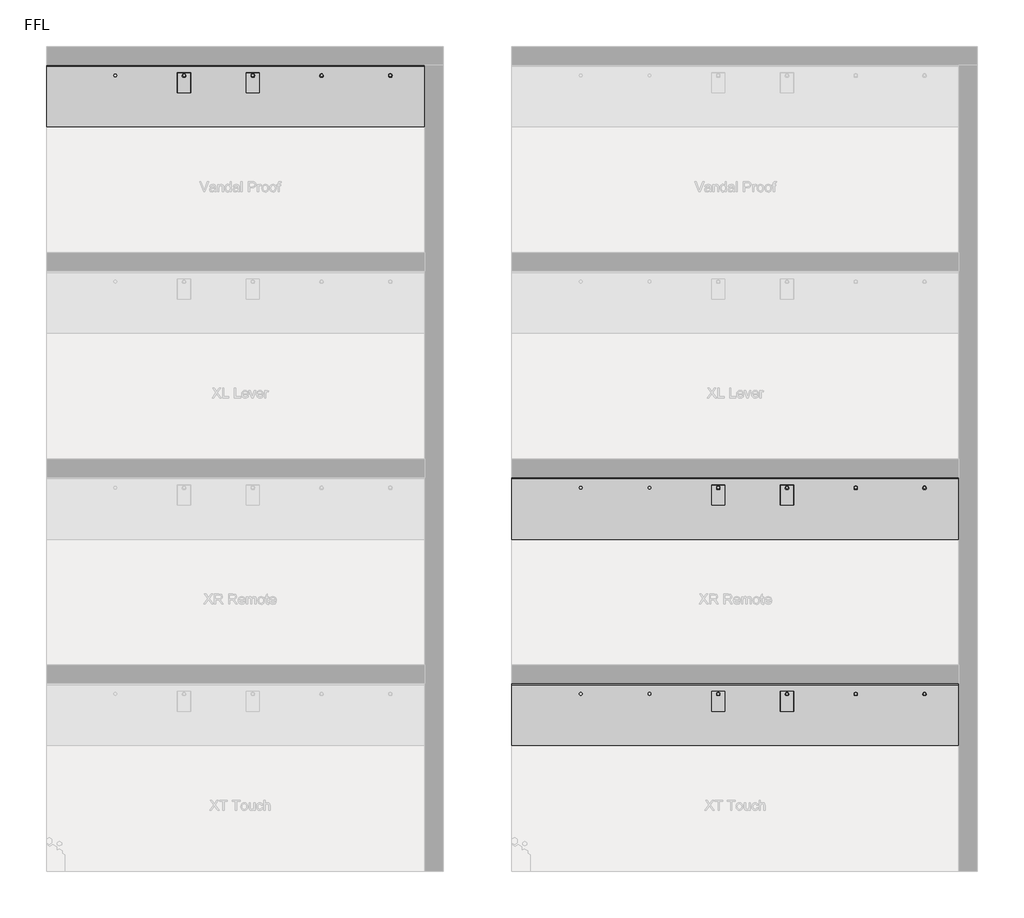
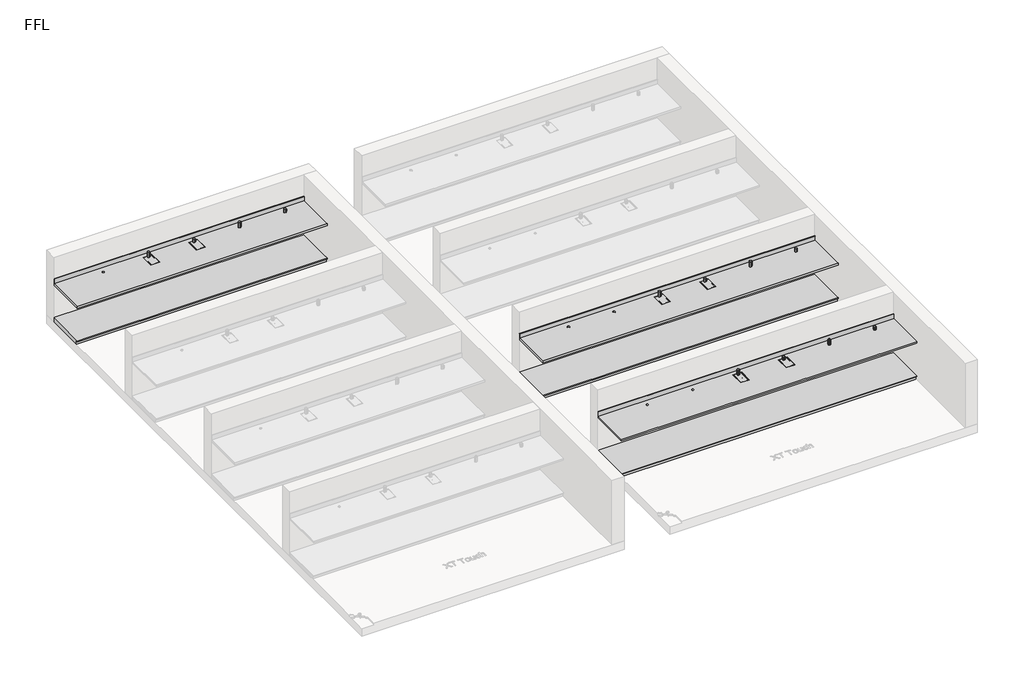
# One storey, part 2 of 5: 12 flow terminals, 6 furniture elements.
"""IFC4 building model written with IfcOpenShell, lengths in millimetres."""

from ifc_helpers import new_model, si_unit, frame, origin, place, context, project, spatial, polyline, circle_curve, transform, mapped, element, save
from ifc_brep_helpers import plane_surface, revolved_surface, advanced_brep
from components import brushed_582ad824, chrome_7b1b1f62, chrome_988dec97, chrome_73782d16, generic_plinth_900mm_f33d2354, generic_plinth_900mm_e3c7578c

model = new_model("IFC4")

# Units and contexts
model_context = context("Model", 3, world=origin())
ifc_project = project(units=[si_unit("LENGTHUNIT", "METRE", prefix="MILLI")], contexts=[model_context])

# Site, building, storey
site = spatial("IfcSite", under=ifc_project)
building = spatial("IfcBuilding", under=site)
storey = spatial("IfcBuildingStorey", under=building, Name="FFL", Elevation=0.0)

# Flow terminals
placement = place(None, origin())
brushed_shape = brushed_582ad824(model_context)
element("IfcFlowTerminal", 1, ObjectType="z_PlumFixt_Billi_70mm Riser  : Brushed", at=placement, inside=storey, context=model_context, shape_type="MappedRepresentation", body=[
    mapped(brushed_shape, transform((20299.2647071, 4711.9893304, 900.0), x_axis=(1.0, 0.0, 0.0), y_axis=(0.0, 1.0, 0.0), z_axis=(0.0, 0.0, 1.0))),
])
element("IfcFlowTerminal", 2, ObjectType="z_PlumFixt_Billi_70mm Riser  : Chrome", at=placement, inside=storey, context=model_context, shape_type="MappedRepresentation", body=[
    mapped(brushed_shape, transform((12529.2647071, 13711.9893304, 900.0), x_axis=(1.0, 0.0, 0.0), y_axis=(0.0, 1.0, 0.0), z_axis=(0.0, 0.0, 1.0))),
])
element("IfcFlowTerminal", 3, ObjectType="z_PlumFixt_Billi_70mm Riser  : Chrome", at=placement, inside=storey, context=model_context, shape_type="MappedRepresentation", body=[
    mapped(brushed_shape, transform((20299.2647071, 7711.9893304, 900.0), x_axis=(1.0, 0.0, 0.0), y_axis=(0.0, 1.0, 0.0), z_axis=(0.0, 0.0, 1.0))),
])
chrome_shape = chrome_7b1b1f62(model_context)
element("IfcFlowTerminal", 4, ObjectType="z_PlumFixt_Billi_120mm Riser : Chrome", at=placement, inside=storey, context=model_context, shape_type="MappedRepresentation", body=[
    mapped(chrome_shape, transform((11529.2647071, 13711.9893304, 900.0), x_axis=(1.0, 0.0, 0.0), y_axis=(0.0, 1.0, 0.0), z_axis=(0.0, 0.0, 1.0))),
])
element("IfcFlowTerminal", 5, ObjectType="z_PlumFixt_Billi_120mm Riser : Chrome", at=placement, inside=storey, context=model_context, shape_type="MappedRepresentation", body=[
    mapped(chrome_shape, transform((19299.2647071, 7711.9893304, 900.0), x_axis=(1.0, 0.0, 0.0), y_axis=(0.0, 1.0, 0.0), z_axis=(0.0, 0.0, 1.0))),
])
element("IfcFlowTerminal", 6, ObjectType="z_PlumFixt_Billi_120mm Riser : Chrome", at=placement, inside=storey, context=model_context, shape_type="MappedRepresentation", body=[
    mapped(chrome_shape, transform((19299.2647071, 4711.9893304, 900.0), x_axis=(1.0, 0.0, 0.0), y_axis=(0.0, 1.0, 0.0), z_axis=(0.0, 0.0, 1.0))),
])
chrome_2_shape = chrome_988dec97(model_context)
element("IfcFlowTerminal", 7, ObjectType="z_PlumFixt_Billi_Font and 70mm Riser : Chrome", at=placement, inside=storey, context=model_context, shape_type="MappedRepresentation", body=[
    mapped(chrome_2_shape, transform((10529.2647071, 13603.3988696, 900.0), x_axis=(1.0, 0.0, 0.0), y_axis=(0.0, 1.0, 0.0), z_axis=(0.0, 0.0, 1.0))),
])
element("IfcFlowTerminal", 8, ObjectType="z_PlumFixt_Billi_Font and 70mm Riser : Chrome", at=placement, inside=storey, context=model_context, shape_type="MappedRepresentation", body=[
    mapped(chrome_2_shape, transform((18299.2647071, 7603.3988696, 900.0), x_axis=(1.0, 0.0, 0.0), y_axis=(0.0, 1.0, 0.0), z_axis=(0.0, 0.0, 1.0))),
])
chrome_3_shape = chrome_73782d16(model_context)
element("IfcFlowTerminal", 9, ObjectType="z_PlumFixt_Billi_Font and 120mm Riser : Chrome", at=placement, inside=storey, context=model_context, shape_type="MappedRepresentation", body=[
    mapped(chrome_3_shape, transform((17299.2647071, 7603.3988696, 900.0), x_axis=(1.0, 0.0, 0.0), y_axis=(0.0, 1.0, 0.0), z_axis=(0.0, 0.0, 1.0))),
])
element("IfcFlowTerminal", 10, ObjectType="z_PlumFixt_Billi_Font and 120mm Riser : Chrome", at=placement, inside=storey, context=model_context, shape_type="MappedRepresentation", body=[
    mapped(chrome_3_shape, transform((9529.2647071, 13603.3988696, 900.0), x_axis=(1.0, 0.0, 0.0), y_axis=(0.0, 1.0, 0.0), z_axis=(0.0, 0.0, 1.0))),
])
element("IfcFlowTerminal", 11, ObjectType="z_PlumFixt_Billi_Font and 70mm Riser : Matte Black", at=placement, inside=storey, context=model_context, shape_type="MappedRepresentation", body=[
    mapped(chrome_2_shape, transform((18299.2647071, 4603.3988696, 900.0), x_axis=(1.0, 0.0, 0.0), y_axis=(0.0, 1.0, 0.0), z_axis=(0.0, 0.0, 1.0))),
])
element("IfcFlowTerminal", 12, ObjectType="z_PlumFixt_Billi_Font and 120mm Riser : Matte White", at=placement, inside=storey, context=model_context, shape_type="MappedRepresentation", body=[
    mapped(chrome_3_shape, transform((17299.2647071, 4603.3988696, 900.0), x_axis=(1.0, 0.0, 0.0), y_axis=(0.0, 1.0, 0.0), z_axis=(0.0, 0.0, 1.0))),
])

# Furniture
element("IfcFurniture", 13, ObjectType="Counter Top : 900mm Depth", at=placement, inside=storey, context=model_context, shape_type="AdvancedBrep", body=[
    advanced_brep(
    [(7530.2647071, 12948.2393304, 900.0), (13030.2647071, 12948.2393304, 900.0), (13030.2647071, 13829.1893304, 900.0), (7530.2647071, 13829.1893304, 900.0), (8530.2647071, 13718.2393304, 900.0), (8530.2647071, 13678.2393304, 900.0), (10434.7647071, 13735.1488696, 900.0), (10625.7647071, 13735.1488696, 900.0), (10625.7647071, 13444.1488696, 900.0), (10434.7647071, 13444.1488696, 900.0), (11530.2647071, 13718.2393304, 900.0), (11530.2647071, 13678.2393304, 900.0), (12530.2647071, 13718.2393304, 900.0), (12530.2647071, 13678.2393304, 900.0), (9434.7647071, 13735.1488696, 900.0), (9625.7647071, 13735.1488696, 900.0), (9625.7647071, 13444.1488696, 900.0), (9434.7647071, 13444.1488696, 900.0), (13030.2647071, 13848.2393304, 860.0), (13030.2647071, 12948.2393304, 860.0), (7530.2647071, 12948.2393304, 860.0), (7530.2647071, 13848.2393304, 860.0), (8530.2647071, 13678.2393304, 860.0), (8530.2647071, 13718.2393304, 860.0), (10617.2647071, 13726.6488696, 860.0), (10443.2647071, 13726.6488696, 860.0), (10443.2647071, 13452.6488696, 860.0), (10617.2647071, 13452.6488696, 860.0), (11530.2647071, 13678.2393304, 860.0), (11530.2647071, 13718.2393304, 860.0), (12530.2647071, 13678.2393304, 860.0), (12530.2647071, 13718.2393304, 860.0), (9617.2647071, 13726.6488696, 860.0), (9443.2647071, 13726.6488696, 860.0), (9443.2647071, 13452.6488696, 860.0), (9617.2647071, 13452.6488696, 860.0), (7530.2647071, 13848.2393304, 1001.6), (13030.2647071, 13848.2393304, 1001.6), (7530.2647071, 13829.1893304, 1001.6), (13030.2647071, 13829.1893304, 1001.6), (10434.7647071, 13735.1488696, 894.5), (10625.7647071, 13735.1488696, 894.5), (10617.2647071, 13726.6488696, 894.5), (10443.2647071, 13726.6488696, 894.5), (10625.7647071, 13444.1488696, 894.5), (10617.2647071, 13452.6488696, 894.5), (10434.7647071, 13444.1488696, 894.5), (10443.2647071, 13452.6488696, 894.5), (9434.7647071, 13735.1488696, 894.5), (9625.7647071, 13735.1488696, 894.5), (9617.2647071, 13726.6488696, 894.5), (9443.2647071, 13726.6488696, 894.5), (9625.7647071, 13444.1488696, 894.5), (9617.2647071, 13452.6488696, 894.5), (9434.7647071, 13444.1488696, 894.5), (9443.2647071, 13452.6488696, 894.5)],
    [
        (0, 1),
        (1, 2),
        (2, 3),
        (3, 0),
        (4, 5, circle_curve(frame((8530.2647071, 13698.2393304, 900.0), z_axis=(0.0, 0.0, -1.0), x_axis=(0.0, 1.0, 0.0)), 20.0)),
        (5, 4, circle_curve(frame((8530.2647071, 13698.2393304, 900.0), z_axis=(0.0, 0.0, -1.0), x_axis=(0.0, 1.0, 0.0)), 20.0)),
        (6, 7),
        (7, 8),
        (8, 9),
        (9, 6),
        (10, 11, circle_curve(frame((11530.2647071, 13698.2393304, 900.0), z_axis=(0.0, 0.0, -1.0), x_axis=(0.0, 1.0, 0.0)), 20.0)),
        (11, 10, circle_curve(frame((11530.2647071, 13698.2393304, 900.0), z_axis=(0.0, 0.0, -1.0), x_axis=(0.0, 1.0, 0.0)), 20.0)),
        (12, 13, circle_curve(frame((12530.2647071, 13698.2393304, 900.0), z_axis=(0.0, 0.0, -1.0), x_axis=(0.0, 1.0, 0.0)), 20.0)),
        (13, 12, circle_curve(frame((12530.2647071, 13698.2393304, 900.0), z_axis=(0.0, 0.0, -1.0), x_axis=(0.0, 1.0, 0.0)), 20.0)),
        (14, 15),
        (15, 16),
        (16, 17),
        (17, 14),
        (18, 19),
        (19, 20),
        (20, 21),
        (21, 18),
        (22, 23, circle_curve(frame((8530.2647071, 13698.2393304, 860.0), z_axis=(0.0, 0.0, 1.0), x_axis=(0.0, 1.0, 0.0)), 20.0)),
        (23, 22, circle_curve(frame((8530.2647071, 13698.2393304, 860.0), z_axis=(0.0, 0.0, 1.0), x_axis=(0.0, 1.0, 0.0)), 20.0)),
        (24, 25),
        (25, 26),
        (26, 27),
        (27, 24),
        (28, 29, circle_curve(frame((11530.2647071, 13698.2393304, 860.0), z_axis=(0.0, 0.0, 1.0), x_axis=(0.0, 1.0, 0.0)), 20.0)),
        (29, 28, circle_curve(frame((11530.2647071, 13698.2393304, 860.0), z_axis=(0.0, 0.0, 1.0), x_axis=(0.0, 1.0, 0.0)), 20.0)),
        (30, 31, circle_curve(frame((12530.2647071, 13698.2393304, 860.0), z_axis=(0.0, 0.0, 1.0), x_axis=(0.0, 1.0, 0.0)), 20.0)),
        (31, 30, circle_curve(frame((12530.2647071, 13698.2393304, 860.0), z_axis=(0.0, 0.0, 1.0), x_axis=(0.0, 1.0, 0.0)), 20.0)),
        (32, 33),
        (33, 34),
        (34, 35),
        (35, 32),
        (21, 36),
        (36, 37),
        (37, 18),
        (3, 38),
        (38, 36),
        (20, 0),
        (19, 1),
        (37, 39),
        (39, 2),
        (38, 39),
        (22, 5),
        (4, 23),
        (40, 41),
        (41, 7),
        (6, 40),
        (42, 43),
        (43, 25),
        (24, 42),
        (41, 44),
        (44, 8),
        (45, 42),
        (27, 45),
        (44, 46),
        (46, 9),
        (47, 45),
        (26, 47),
        (46, 40),
        (47, 43),
        (28, 11),
        (10, 29),
        (30, 13),
        (12, 31),
        (48, 49),
        (49, 15),
        (14, 48),
        (50, 51),
        (51, 33),
        (32, 50),
        (49, 52),
        (52, 16),
        (53, 50),
        (35, 53),
        (52, 54),
        (54, 17),
        (55, 53),
        (34, 55),
        (54, 48),
        (55, 51),
    ],
    [
        plane_surface(frame((7530.2647071, 13848.2393304, 900.0), z_axis=(0.0, 0.0, 1.0), x_axis=(-1.0, 0.0, 0.0))),
        plane_surface(frame((7530.2647071, 13848.2393304, 860.0), z_axis=(0.0, 0.0, -1.0), x_axis=(1.0, 0.0, 0.0))),
        plane_surface(frame((13030.2647071, 13848.2393304, 900.0), z_axis=(0.0, 1.0, 0.0), x_axis=(0.0, 0.0, -1.0))),
        plane_surface(frame((7530.2647071, 13848.2393304, 900.0), z_axis=(-1.0, 0.0, 0.0), x_axis=(0.0, 0.0, -1.0))),
        plane_surface(frame((7530.2647071, 12948.2393304, 900.0), z_axis=(0.0, -1.0, 0.0), x_axis=(0.0, 0.0, -1.0))),
        plane_surface(frame((13030.2647071, 12948.2393304, 900.0), z_axis=(1.0, 0.0, 0.0), x_axis=(0.0, 0.0, -1.0))),
        plane_surface(frame((7530.2647071, 13848.2393304, 1001.6), z_axis=(0.0, 0.0, 1.0), x_axis=(0.0, -1.0, 0.0))),
        plane_surface(frame((7530.2647071, 13829.1893304, 1001.6), z_axis=(0.0, -1.0, 0.0), x_axis=(0.0, 0.0, -1.0))),
        revolved_surface(polyline([(8530.2647071, 13718.2393304, 900.0), (8530.2647071, 13718.2393304, 860.0)]), (8530.2647071, 13698.2393304, 800.0), (0.0, 0.0, 1.0)),
        plane_surface(frame((10434.7647071, 13735.1488696, 900.0), z_axis=(0.0, -1.0, 0.0), x_axis=(1.0, 0.0, 0.0))),
        plane_surface(frame((10443.2647071, 13726.6488696, 894.5), z_axis=(0.0, -1.0, 0.0), x_axis=(1.0, 0.0, 0.0))),
        plane_surface(frame((10625.7647071, 13735.1488696, 900.0), z_axis=(-1.0, 0.0, 0.0), x_axis=(0.0, -1.0, 0.0))),
        plane_surface(frame((10617.2647071, 13726.6488696, 894.5), z_axis=(-1.0, 0.0, 0.0), x_axis=(0.0, -1.0, 0.0))),
        plane_surface(frame((10625.7647071, 13444.1488696, 900.0), z_axis=(0.0, 1.0, 0.0), x_axis=(-1.0, 0.0, 0.0))),
        plane_surface(frame((10617.2647071, 13452.6488696, 894.5), z_axis=(0.0, 1.0, 0.0), x_axis=(-1.0, 0.0, 0.0))),
        plane_surface(frame((10434.7647071, 13444.1488696, 900.0), z_axis=(1.0, 0.0, 0.0), x_axis=(0.0, 1.0, 0.0))),
        plane_surface(frame((10434.7647071, 13444.1488696, 894.5), z_axis=(0.0, 0.0, 1.0), x_axis=(0.0, 1.0, 0.0))),
        plane_surface(frame((10443.2647071, 13452.6488696, 894.5), z_axis=(1.0, 0.0, 0.0), x_axis=(0.0, 1.0, 0.0))),
        revolved_surface(polyline([(11530.2647071, 13718.2393304, 900.0), (11530.2647071, 13718.2393304, 860.0)]), (11530.2647071, 13698.2393304, 800.0), (0.0, 0.0, 1.0)),
        revolved_surface(polyline([(12530.2647071, 13718.2393304, 900.0), (12530.2647071, 13718.2393304, 860.0)]), (12530.2647071, 13698.2393304, 800.0), (0.0, 0.0, 1.0)),
        plane_surface(frame((9434.7647071, 13735.1488696, 900.0), z_axis=(0.0, -1.0, 0.0), x_axis=(1.0, 0.0, 0.0))),
        plane_surface(frame((9443.2647071, 13726.6488696, 894.5), z_axis=(0.0, -1.0, 0.0), x_axis=(1.0, 0.0, 0.0))),
        plane_surface(frame((9625.7647071, 13735.1488696, 900.0), z_axis=(-1.0, 0.0, 0.0), x_axis=(0.0, -1.0, 0.0))),
        plane_surface(frame((9617.2647071, 13726.6488696, 894.5), z_axis=(-1.0, 0.0, 0.0), x_axis=(0.0, -1.0, 0.0))),
        plane_surface(frame((9625.7647071, 13444.1488696, 900.0), z_axis=(0.0, 1.0, 0.0), x_axis=(-1.0, 0.0, 0.0))),
        plane_surface(frame((9617.2647071, 13452.6488696, 894.5), z_axis=(0.0, 1.0, 0.0), x_axis=(-1.0, 0.0, 0.0))),
        plane_surface(frame((9434.7647071, 13444.1488696, 900.0), z_axis=(1.0, 0.0, 0.0), x_axis=(0.0, 1.0, 0.0))),
        plane_surface(frame((9434.7647071, 13444.1488696, 894.5), z_axis=(0.0, 0.0, 1.0), x_axis=(0.0, 1.0, 0.0))),
        plane_surface(frame((9443.2647071, 13452.6488696, 894.5), z_axis=(1.0, 0.0, 0.0), x_axis=(0.0, 1.0, 0.0))),
    ],
    [
        (0, [[1, 2, 3, 4], [5, 6], [7, 8, 9, 10], [11, 12], [13, 14], [15, 16, 17, 18]]),
        (1, [[19, 20, 21, 22], [23, 24], [25, 26, 27, 28], [29, 30], [31, 32], [33, 34, 35, 36]]),
        (2, [[-22, 37, 38, 39]]),
        (3, [[-4, 40, 41, -37, -21, 42]]),
        (4, [[-1, -42, -20, 43]]),
        (5, [[-2, -43, -19, -39, 44, 45]]),
        (6, [[-38, -41, 46, -44]]),
        (7, [[-3, -45, -46, -40]]),
        (8, [[47, -5, 48, -23]]),
        (8, [[-47, -24, -48, -6]]),
        (9, [[49, 50, -7, 51]]),
        (10, [[52, 53, -25, 54]]),
        (11, [[-50, 55, 56, -8]]),
        (12, [[57, -54, -28, 58]]),
        (13, [[-56, 59, 60, -9]]),
        (14, [[61, -58, -27, 62]]),
        (15, [[-51, -10, -60, 63]]),
        (16, [[-49, -63, -59, -55], [-52, -57, -61, 64]]),
        (17, [[-64, -62, -26, -53]]),
        (18, [[65, -11, 66, -29]]),
        (18, [[-65, -30, -66, -12]]),
        (19, [[67, -13, 68, -31]]),
        (19, [[-67, -32, -68, -14]]),
        (20, [[69, 70, -15, 71]]),
        (21, [[72, 73, -33, 74]]),
        (22, [[-70, 75, 76, -16]]),
        (23, [[77, -74, -36, 78]]),
        (24, [[-76, 79, 80, -17]]),
        (25, [[81, -78, -35, 82]]),
        (26, [[-71, -18, -80, 83]]),
        (27, [[-69, -83, -79, -75], [-72, -77, -81, 84]]),
        (28, [[-84, -82, -34, -73]]),
    ],
),
])
element("IfcFurniture", 14, ObjectType="Counter Top : 900mm Depth", at=placement, inside=storey, context=model_context, shape_type="AdvancedBrep", body=[
    advanced_brep(
    [(14300.2647071, 6948.2393304, 900.0), (20800.2647071, 6948.2393304, 900.0), (20800.2647071, 7829.1893304, 900.0), (14300.2647071, 7829.1893304, 900.0), (15300.2647071, 7718.2393304, 900.0), (15300.2647071, 7678.2393304, 900.0), (16300.2647071, 7718.2393304, 900.0), (16300.2647071, 7678.2393304, 900.0), (17395.7647071, 7735.1488696, 900.0), (17395.7647071, 7444.1488696, 900.0), (17204.7647071, 7444.1488696, 900.0), (17204.7647071, 7735.1488696, 900.0), (18395.7647071, 7735.1488696, 900.0), (18395.7647071, 7444.1488696, 900.0), (18204.7647071, 7444.1488696, 900.0), (18204.7647071, 7735.1488696, 900.0), (19300.2647071, 7718.2393304, 900.0), (19300.2647071, 7678.2393304, 900.0), (20300.2647071, 7718.2393304, 900.0), (20300.2647071, 7678.2393304, 900.0), (20800.2647071, 7848.2393304, 860.0), (20800.2647071, 6948.2393304, 860.0), (14300.2647071, 6948.2393304, 860.0), (14300.2647071, 7848.2393304, 860.0), (15300.2647071, 7678.2393304, 860.0), (15300.2647071, 7718.2393304, 860.0), (16300.2647071, 7678.2393304, 860.0), (16300.2647071, 7718.2393304, 860.0), (17387.2647071, 7452.6488696, 860.0), (17387.2647071, 7726.6488696, 860.0), (17213.2647071, 7726.6488696, 860.0), (17213.2647071, 7452.6488696, 860.0), (18387.2647071, 7452.6488696, 860.0), (18387.2647071, 7726.6488696, 860.0), (18213.2647071, 7726.6488696, 860.0), (18213.2647071, 7452.6488696, 860.0), (19300.2647071, 7678.2393304, 860.0), (19300.2647071, 7718.2393304, 860.0), (20300.2647071, 7678.2393304, 860.0), (20300.2647071, 7718.2393304, 860.0), (14300.2647071, 7848.2393304, 1001.6), (20800.2647071, 7848.2393304, 1001.6), (14300.2647071, 7829.1893304, 1001.6), (20800.2647071, 7829.1893304, 1001.6), (17395.7647071, 7735.1488696, 894.5), (17395.7647071, 7444.1488696, 894.5), (17387.2647071, 7452.6488696, 894.5), (17387.2647071, 7726.6488696, 894.5), (17204.7647071, 7735.1488696, 894.5), (17213.2647071, 7726.6488696, 894.5), (17204.7647071, 7444.1488696, 894.5), (17213.2647071, 7452.6488696, 894.5), (18395.7647071, 7735.1488696, 894.5), (18395.7647071, 7444.1488696, 894.5), (18387.2647071, 7452.6488696, 894.5), (18387.2647071, 7726.6488696, 894.5), (18204.7647071, 7735.1488696, 894.5), (18213.2647071, 7726.6488696, 894.5), (18204.7647071, 7444.1488696, 894.5), (18213.2647071, 7452.6488696, 894.5)],
    [
        (0, 1),
        (1, 2),
        (2, 3),
        (3, 0),
        (4, 5, circle_curve(frame((15300.2647071, 7698.2393304, 900.0), z_axis=(0.0, 0.0, -1.0), x_axis=(0.0, 1.0, 0.0)), 20.0)),
        (5, 4, circle_curve(frame((15300.2647071, 7698.2393304, 900.0), z_axis=(0.0, 0.0, -1.0), x_axis=(0.0, 1.0, 0.0)), 20.0)),
        (6, 7, circle_curve(frame((16300.2647071, 7698.2393304, 900.0), z_axis=(0.0, 0.0, -1.0), x_axis=(0.0, 1.0, 0.0)), 20.0)),
        (7, 6, circle_curve(frame((16300.2647071, 7698.2393304, 900.0), z_axis=(0.0, 0.0, -1.0), x_axis=(0.0, 1.0, 0.0)), 20.0)),
        (8, 9),
        (9, 10),
        (10, 11),
        (11, 8),
        (12, 13),
        (13, 14),
        (14, 15),
        (15, 12),
        (16, 17, circle_curve(frame((19300.2647071, 7698.2393304, 900.0), z_axis=(0.0, 0.0, -1.0), x_axis=(0.0, 1.0, 0.0)), 20.0)),
        (17, 16, circle_curve(frame((19300.2647071, 7698.2393304, 900.0), z_axis=(0.0, 0.0, -1.0), x_axis=(0.0, 1.0, 0.0)), 20.0)),
        (18, 19, circle_curve(frame((20300.2647071, 7698.2393304, 900.0), z_axis=(0.0, 0.0, -1.0), x_axis=(0.0, 1.0, 0.0)), 20.0)),
        (19, 18, circle_curve(frame((20300.2647071, 7698.2393304, 900.0), z_axis=(0.0, 0.0, -1.0), x_axis=(0.0, 1.0, 0.0)), 20.0)),
        (20, 21),
        (21, 22),
        (22, 23),
        (23, 20),
        (24, 25, circle_curve(frame((15300.2647071, 7698.2393304, 860.0), z_axis=(0.0, 0.0, 1.0), x_axis=(0.0, 1.0, 0.0)), 20.0)),
        (25, 24, circle_curve(frame((15300.2647071, 7698.2393304, 860.0), z_axis=(0.0, 0.0, 1.0), x_axis=(0.0, 1.0, 0.0)), 20.0)),
        (26, 27, circle_curve(frame((16300.2647071, 7698.2393304, 860.0), z_axis=(0.0, 0.0, 1.0), x_axis=(0.0, 1.0, 0.0)), 20.0)),
        (27, 26, circle_curve(frame((16300.2647071, 7698.2393304, 860.0), z_axis=(0.0, 0.0, 1.0), x_axis=(0.0, 1.0, 0.0)), 20.0)),
        (28, 29),
        (29, 30),
        (30, 31),
        (31, 28),
        (32, 33),
        (33, 34),
        (34, 35),
        (35, 32),
        (36, 37, circle_curve(frame((19300.2647071, 7698.2393304, 860.0), z_axis=(0.0, 0.0, 1.0), x_axis=(0.0, 1.0, 0.0)), 20.0)),
        (37, 36, circle_curve(frame((19300.2647071, 7698.2393304, 860.0), z_axis=(0.0, 0.0, 1.0), x_axis=(0.0, 1.0, 0.0)), 20.0)),
        (38, 39, circle_curve(frame((20300.2647071, 7698.2393304, 860.0), z_axis=(0.0, 0.0, 1.0), x_axis=(0.0, 1.0, 0.0)), 20.0)),
        (39, 38, circle_curve(frame((20300.2647071, 7698.2393304, 860.0), z_axis=(0.0, 0.0, 1.0), x_axis=(0.0, 1.0, 0.0)), 20.0)),
        (23, 40),
        (40, 41),
        (41, 20),
        (3, 42),
        (42, 40),
        (22, 0),
        (21, 1),
        (41, 43),
        (43, 2),
        (42, 43),
        (24, 5),
        (4, 25),
        (26, 7),
        (6, 27),
        (8, 44),
        (44, 45),
        (45, 9),
        (46, 47),
        (47, 29),
        (28, 46),
        (11, 48),
        (48, 44),
        (47, 49),
        (49, 30),
        (10, 50),
        (50, 48),
        (49, 51),
        (51, 31),
        (45, 50),
        (51, 46),
        (12, 52),
        (52, 53),
        (53, 13),
        (54, 55),
        (55, 33),
        (32, 54),
        (15, 56),
        (56, 52),
        (55, 57),
        (57, 34),
        (14, 58),
        (58, 56),
        (57, 59),
        (59, 35),
        (53, 58),
        (59, 54),
        (36, 17),
        (16, 37),
        (38, 19),
        (18, 39),
    ],
    [
        plane_surface(frame((14300.2647071, 7848.2393304, 900.0), z_axis=(0.0, 0.0, 1.0), x_axis=(-1.0, 0.0, 0.0))),
        plane_surface(frame((14300.2647071, 7848.2393304, 860.0), z_axis=(0.0, 0.0, -1.0), x_axis=(1.0, 0.0, 0.0))),
        plane_surface(frame((20800.2647071, 7848.2393304, 900.0), z_axis=(0.0, 1.0, 0.0), x_axis=(0.0, 0.0, -1.0))),
        plane_surface(frame((14300.2647071, 7848.2393304, 900.0), z_axis=(-1.0, 0.0, 0.0), x_axis=(0.0, 0.0, -1.0))),
        plane_surface(frame((14300.2647071, 6948.2393304, 900.0), z_axis=(0.0, -1.0, 0.0), x_axis=(0.0, 0.0, -1.0))),
        plane_surface(frame((20800.2647071, 6948.2393304, 900.0), z_axis=(1.0, 0.0, 0.0), x_axis=(0.0, 0.0, -1.0))),
        plane_surface(frame((14300.2647071, 7848.2393304, 1001.6), z_axis=(0.0, 0.0, 1.0), x_axis=(0.0, -1.0, 0.0))),
        plane_surface(frame((14300.2647071, 7829.1893304, 1001.6), z_axis=(0.0, -1.0, 0.0), x_axis=(0.0, 0.0, -1.0))),
        revolved_surface(polyline([(15300.2647071, 7718.2393304, 900.0), (15300.2647071, 7718.2393304, 860.0)]), (15300.2647071, 7698.2393304, 800.0), (0.0, 0.0, 1.0)),
        revolved_surface(polyline([(16300.2647071, 7718.2393304, 900.0), (16300.2647071, 7718.2393304, 860.0)]), (16300.2647071, 7698.2393304, 800.0), (0.0, 0.0, 1.0)),
        plane_surface(frame((17395.7647071, 7444.1488696, 894.5), z_axis=(-1.0, 0.0, 0.0), x_axis=(0.0, 1.0, 0.0))),
        plane_surface(frame((17387.2647071, 7452.6488696, 800.0), z_axis=(-1.0, 0.0, 0.0), x_axis=(0.0, 1.0, 0.0))),
        plane_surface(frame((17395.7647071, 7735.1488696, 894.5), z_axis=(0.0, -1.0, 0.0), x_axis=(-1.0, 0.0, 0.0))),
        plane_surface(frame((17387.2647071, 7726.6488696, 800.0), z_axis=(0.0, -1.0, 0.0), x_axis=(-1.0, 0.0, 0.0))),
        plane_surface(frame((17204.7647071, 7735.1488696, 894.5), z_axis=(1.0, 0.0, 0.0), x_axis=(0.0, -1.0, 0.0))),
        plane_surface(frame((17213.2647071, 7726.6488696, 800.0), z_axis=(1.0, 0.0, 0.0), x_axis=(0.0, -1.0, 0.0))),
        plane_surface(frame((17204.7647071, 7444.1488696, 894.5), z_axis=(0.0, 1.0, 0.0), x_axis=(1.0, 0.0, 0.0))),
        plane_surface(frame((17213.2647071, 7452.6488696, 800.0), z_axis=(0.0, 1.0, 0.0), x_axis=(1.0, 0.0, 0.0))),
        plane_surface(frame((17213.2647071, 7452.6488696, 894.5), z_axis=(0.0, 0.0, 1.0), x_axis=(1.0, 0.0, 0.0))),
        plane_surface(frame((18395.7647071, 7444.1488696, 894.5), z_axis=(-1.0, 0.0, 0.0), x_axis=(0.0, 1.0, 0.0))),
        plane_surface(frame((18387.2647071, 7452.6488696, 800.0), z_axis=(-1.0, 0.0, 0.0), x_axis=(0.0, 1.0, 0.0))),
        plane_surface(frame((18395.7647071, 7735.1488696, 894.5), z_axis=(0.0, -1.0, 0.0), x_axis=(-1.0, 0.0, 0.0))),
        plane_surface(frame((18387.2647071, 7726.6488696, 800.0), z_axis=(0.0, -1.0, 0.0), x_axis=(-1.0, 0.0, 0.0))),
        plane_surface(frame((18204.7647071, 7735.1488696, 894.5), z_axis=(1.0, 0.0, 0.0), x_axis=(0.0, -1.0, 0.0))),
        plane_surface(frame((18213.2647071, 7726.6488696, 800.0), z_axis=(1.0, 0.0, 0.0), x_axis=(0.0, -1.0, 0.0))),
        plane_surface(frame((18204.7647071, 7444.1488696, 894.5), z_axis=(0.0, 1.0, 0.0), x_axis=(1.0, 0.0, 0.0))),
        plane_surface(frame((18213.2647071, 7452.6488696, 800.0), z_axis=(0.0, 1.0, 0.0), x_axis=(1.0, 0.0, 0.0))),
        plane_surface(frame((18213.2647071, 7452.6488696, 894.5), z_axis=(0.0, 0.0, 1.0), x_axis=(1.0, 0.0, 0.0))),
        revolved_surface(polyline([(19300.2647071, 7718.2393304, 900.0), (19300.2647071, 7718.2393304, 860.0)]), (19300.2647071, 7698.2393304, 800.0), (0.0, 0.0, 1.0)),
        revolved_surface(polyline([(20300.2647071, 7718.2393304, 900.0), (20300.2647071, 7718.2393304, 860.0)]), (20300.2647071, 7698.2393304, 800.0), (0.0, 0.0, 1.0)),
    ],
    [
        (0, [[1, 2, 3, 4], [5, 6], [7, 8], [9, 10, 11, 12], [13, 14, 15, 16], [17, 18], [19, 20]]),
        (1, [[21, 22, 23, 24], [25, 26], [27, 28], [29, 30, 31, 32], [33, 34, 35, 36], [37, 38], [39, 40]]),
        (2, [[-24, 41, 42, 43]]),
        (3, [[-4, 44, 45, -41, -23, 46]]),
        (4, [[-1, -46, -22, 47]]),
        (5, [[-2, -47, -21, -43, 48, 49]]),
        (6, [[-42, -45, 50, -48]]),
        (7, [[-3, -49, -50, -44]]),
        (8, [[51, -5, 52, -25]]),
        (8, [[-51, -26, -52, -6]]),
        (9, [[53, -7, 54, -27]]),
        (9, [[-53, -28, -54, -8]]),
        (10, [[55, 56, 57, -9]]),
        (11, [[58, 59, -29, 60]]),
        (12, [[-55, -12, 61, 62]]),
        (13, [[63, 64, -30, -59]]),
        (14, [[-61, -11, 65, 66]]),
        (15, [[67, 68, -31, -64]]),
        (16, [[-57, 69, -65, -10]]),
        (17, [[70, -60, -32, -68]]),
        (18, [[-56, -62, -66, -69], [-58, -70, -67, -63]]),
        (19, [[71, 72, 73, -13]]),
        (20, [[74, 75, -33, 76]]),
        (21, [[-71, -16, 77, 78]]),
        (22, [[79, 80, -34, -75]]),
        (23, [[-77, -15, 81, 82]]),
        (24, [[83, 84, -35, -80]]),
        (25, [[-73, 85, -81, -14]]),
        (26, [[86, -76, -36, -84]]),
        (27, [[-72, -78, -82, -85], [-74, -86, -83, -79]]),
        (28, [[87, -17, 88, -37]]),
        (28, [[-87, -38, -88, -18]]),
        (29, [[89, -19, 90, -39]]),
        (29, [[-89, -40, -90, -20]]),
    ],
),
])
element("IfcFurniture", 15, ObjectType="Counter Top : 900mm Depth", at=placement, inside=storey, context=model_context, shape_type="AdvancedBrep", body=[
    advanced_brep(
    [(14300.2647071, 3948.2393304, 900.0), (20800.2647071, 3948.2393304, 900.0), (20800.2647071, 4829.1893304, 900.0), (14300.2647071, 4829.1893304, 900.0), (20300.2647071, 4718.2393304, 900.0), (20300.2647071, 4678.2393304, 900.0), (15300.2647071, 4718.2393304, 900.0), (15300.2647071, 4678.2393304, 900.0), (16300.2647071, 4718.2393304, 900.0), (16300.2647071, 4678.2393304, 900.0), (17395.7647071, 4444.1488696, 900.0), (17204.7647071, 4444.1488696, 900.0), (17204.7647071, 4735.1488696, 900.0), (17395.7647071, 4735.1488696, 900.0), (18395.7647071, 4444.1488696, 900.0), (18204.7647071, 4444.1488696, 900.0), (18204.7647071, 4735.1488696, 900.0), (18395.7647071, 4735.1488696, 900.0), (19300.2647071, 4718.2393304, 900.0), (19300.2647071, 4678.2393304, 900.0), (20800.2647071, 4848.2393304, 860.0), (20800.2647071, 3948.2393304, 860.0), (14300.2647071, 3948.2393304, 860.0), (14300.2647071, 4848.2393304, 860.0), (20300.2647071, 4678.2393304, 860.0), (20300.2647071, 4718.2393304, 860.0), (15300.2647071, 4678.2393304, 860.0), (15300.2647071, 4718.2393304, 860.0), (16300.2647071, 4678.2393304, 860.0), (16300.2647071, 4718.2393304, 860.0), (17213.2647071, 4452.6488696, 860.0), (17387.2647071, 4452.6488696, 860.0), (17387.2647071, 4726.6488696, 860.0), (17213.2647071, 4726.6488696, 860.0), (18213.2647071, 4452.6488696, 860.0), (18387.2647071, 4452.6488696, 860.0), (18387.2647071, 4726.6488696, 860.0), (18213.2647071, 4726.6488696, 860.0), (19300.2647071, 4678.2393304, 860.0), (19300.2647071, 4718.2393304, 860.0), (14300.2647071, 4848.2393304, 1001.6), (20800.2647071, 4848.2393304, 1001.6), (14300.2647071, 4829.1893304, 1001.6), (20800.2647071, 4829.1893304, 1001.6), (17213.2647071, 4452.6488696, 894.5), (17387.2647071, 4452.6488696, 894.5), (17395.7647071, 4444.1488696, 894.5), (17204.7647071, 4444.1488696, 894.5), (17387.2647071, 4726.6488696, 894.5), (17395.7647071, 4735.1488696, 894.5), (17213.2647071, 4726.6488696, 894.5), (17204.7647071, 4735.1488696, 894.5), (18213.2647071, 4452.6488696, 894.5), (18387.2647071, 4452.6488696, 894.5), (18395.7647071, 4444.1488696, 894.5), (18204.7647071, 4444.1488696, 894.5), (18387.2647071, 4726.6488696, 894.5), (18395.7647071, 4735.1488696, 894.5), (18213.2647071, 4726.6488696, 894.5), (18204.7647071, 4735.1488696, 894.5)],
    [
        (0, 1),
        (1, 2),
        (2, 3),
        (3, 0),
        (4, 5, circle_curve(frame((20300.2647071, 4698.2393304, 900.0), z_axis=(0.0, 0.0, -1.0), x_axis=(0.0, 1.0, 0.0)), 20.0)),
        (5, 4, circle_curve(frame((20300.2647071, 4698.2393304, 900.0), z_axis=(0.0, 0.0, -1.0), x_axis=(0.0, 1.0, 0.0)), 20.0)),
        (6, 7, circle_curve(frame((15300.2647071, 4698.2393304, 900.0), z_axis=(0.0, 0.0, -1.0), x_axis=(0.0, 1.0, 0.0)), 20.0)),
        (7, 6, circle_curve(frame((15300.2647071, 4698.2393304, 900.0), z_axis=(0.0, 0.0, -1.0), x_axis=(0.0, 1.0, 0.0)), 20.0)),
        (8, 9, circle_curve(frame((16300.2647071, 4698.2393304, 900.0), z_axis=(0.0, 0.0, -1.0), x_axis=(0.0, 1.0, 0.0)), 20.0)),
        (9, 8, circle_curve(frame((16300.2647071, 4698.2393304, 900.0), z_axis=(0.0, 0.0, -1.0), x_axis=(0.0, 1.0, 0.0)), 20.0)),
        (10, 11),
        (11, 12),
        (12, 13),
        (13, 10),
        (14, 15),
        (15, 16),
        (16, 17),
        (17, 14),
        (18, 19, circle_curve(frame((19300.2647071, 4698.2393304, 900.0), z_axis=(0.0, 0.0, -1.0), x_axis=(0.0, 1.0, 0.0)), 20.0)),
        (19, 18, circle_curve(frame((19300.2647071, 4698.2393304, 900.0), z_axis=(0.0, 0.0, -1.0), x_axis=(0.0, 1.0, 0.0)), 20.0)),
        (20, 21),
        (21, 22),
        (22, 23),
        (23, 20),
        (24, 25, circle_curve(frame((20300.2647071, 4698.2393304, 860.0), z_axis=(0.0, 0.0, 1.0), x_axis=(0.0, 1.0, 0.0)), 20.0)),
        (25, 24, circle_curve(frame((20300.2647071, 4698.2393304, 860.0), z_axis=(0.0, 0.0, 1.0), x_axis=(0.0, 1.0, 0.0)), 20.0)),
        (26, 27, circle_curve(frame((15300.2647071, 4698.2393304, 860.0), z_axis=(0.0, 0.0, 1.0), x_axis=(0.0, 1.0, 0.0)), 20.0)),
        (27, 26, circle_curve(frame((15300.2647071, 4698.2393304, 860.0), z_axis=(0.0, 0.0, 1.0), x_axis=(0.0, 1.0, 0.0)), 20.0)),
        (28, 29, circle_curve(frame((16300.2647071, 4698.2393304, 860.0), z_axis=(0.0, 0.0, 1.0), x_axis=(0.0, 1.0, 0.0)), 20.0)),
        (29, 28, circle_curve(frame((16300.2647071, 4698.2393304, 860.0), z_axis=(0.0, 0.0, 1.0), x_axis=(0.0, 1.0, 0.0)), 20.0)),
        (30, 31),
        (31, 32),
        (32, 33),
        (33, 30),
        (34, 35),
        (35, 36),
        (36, 37),
        (37, 34),
        (38, 39, circle_curve(frame((19300.2647071, 4698.2393304, 860.0), z_axis=(0.0, 0.0, 1.0), x_axis=(0.0, 1.0, 0.0)), 20.0)),
        (39, 38, circle_curve(frame((19300.2647071, 4698.2393304, 860.0), z_axis=(0.0, 0.0, 1.0), x_axis=(0.0, 1.0, 0.0)), 20.0)),
        (23, 40),
        (40, 41),
        (41, 20),
        (3, 42),
        (42, 40),
        (22, 0),
        (21, 1),
        (41, 43),
        (43, 2),
        (42, 43),
        (24, 5),
        (4, 25),
        (26, 7),
        (6, 27),
        (28, 9),
        (8, 29),
        (44, 45),
        (45, 31),
        (30, 44),
        (10, 46),
        (46, 47),
        (47, 11),
        (45, 48),
        (48, 32),
        (13, 49),
        (49, 46),
        (48, 50),
        (50, 33),
        (12, 51),
        (51, 49),
        (50, 44),
        (51, 47),
        (52, 53),
        (53, 35),
        (34, 52),
        (14, 54),
        (54, 55),
        (55, 15),
        (53, 56),
        (56, 36),
        (17, 57),
        (57, 54),
        (56, 58),
        (58, 37),
        (16, 59),
        (59, 57),
        (58, 52),
        (59, 55),
        (38, 19),
        (18, 39),
    ],
    [
        plane_surface(frame((14300.2647071, 4848.2393304, 900.0), z_axis=(0.0, 0.0, 1.0), x_axis=(-1.0, 0.0, 0.0))),
        plane_surface(frame((14300.2647071, 4848.2393304, 860.0), z_axis=(0.0, 0.0, -1.0), x_axis=(1.0, 0.0, 0.0))),
        plane_surface(frame((20800.2647071, 4848.2393304, 900.0), z_axis=(0.0, 1.0, 0.0), x_axis=(0.0, 0.0, -1.0))),
        plane_surface(frame((14300.2647071, 4848.2393304, 900.0), z_axis=(-1.0, 0.0, 0.0), x_axis=(0.0, 0.0, -1.0))),
        plane_surface(frame((14300.2647071, 3948.2393304, 900.0), z_axis=(0.0, -1.0, 0.0), x_axis=(0.0, 0.0, -1.0))),
        plane_surface(frame((20800.2647071, 3948.2393304, 900.0), z_axis=(1.0, 0.0, 0.0), x_axis=(0.0, 0.0, -1.0))),
        plane_surface(frame((14300.2647071, 4848.2393304, 1001.6), z_axis=(0.0, 0.0, 1.0), x_axis=(0.0, -1.0, 0.0))),
        plane_surface(frame((14300.2647071, 4829.1893304, 1001.6), z_axis=(0.0, -1.0, 0.0), x_axis=(0.0, 0.0, -1.0))),
        revolved_surface(polyline([(20300.2647071, 4718.2393304, 900.0), (20300.2647071, 4718.2393304, 860.0)]), (20300.2647071, 4698.2393304, 800.0), (0.0, 0.0, 1.0)),
        revolved_surface(polyline([(15300.2647071, 4718.2393304, 900.0), (15300.2647071, 4718.2393304, 860.0)]), (15300.2647071, 4698.2393304, 800.0), (0.0, 0.0, 1.0)),
        revolved_surface(polyline([(16300.2647071, 4718.2393304, 900.0), (16300.2647071, 4718.2393304, 860.0)]), (16300.2647071, 4698.2393304, 800.0), (0.0, 0.0, 1.0)),
        plane_surface(frame((17213.2647071, 4452.6488696, 800.0), z_axis=(0.0, 1.0, 0.0), x_axis=(1.0, 0.0, 0.0))),
        plane_surface(frame((17204.7647071, 4444.1488696, 894.5), z_axis=(0.0, 1.0, 0.0), x_axis=(1.0, 0.0, 0.0))),
        plane_surface(frame((17387.2647071, 4452.6488696, 800.0), z_axis=(-1.0, 0.0, 0.0), x_axis=(0.0, 1.0, 0.0))),
        plane_surface(frame((17395.7647071, 4444.1488696, 894.5), z_axis=(-1.0, 0.0, 0.0), x_axis=(0.0, 1.0, 0.0))),
        plane_surface(frame((17387.2647071, 4726.6488696, 800.0), z_axis=(0.0, -1.0, 0.0), x_axis=(-1.0, 0.0, 0.0))),
        plane_surface(frame((17395.7647071, 4735.1488696, 894.5), z_axis=(0.0, -1.0, 0.0), x_axis=(-1.0, 0.0, 0.0))),
        plane_surface(frame((17213.2647071, 4726.6488696, 800.0), z_axis=(1.0, 0.0, 0.0), x_axis=(0.0, -1.0, 0.0))),
        plane_surface(frame((17213.2647071, 4726.6488696, 894.5), z_axis=(0.0, 0.0, 1.0), x_axis=(0.0, -1.0, 0.0))),
        plane_surface(frame((17204.7647071, 4735.1488696, 894.5), z_axis=(1.0, 0.0, 0.0), x_axis=(0.0, -1.0, 0.0))),
        plane_surface(frame((18213.2647071, 4452.6488696, 800.0), z_axis=(0.0, 1.0, 0.0), x_axis=(1.0, 0.0, 0.0))),
        plane_surface(frame((18204.7647071, 4444.1488696, 894.5), z_axis=(0.0, 1.0, 0.0), x_axis=(1.0, 0.0, 0.0))),
        plane_surface(frame((18387.2647071, 4452.6488696, 800.0), z_axis=(-1.0, 0.0, 0.0), x_axis=(0.0, 1.0, 0.0))),
        plane_surface(frame((18395.7647071, 4444.1488696, 894.5), z_axis=(-1.0, 0.0, 0.0), x_axis=(0.0, 1.0, 0.0))),
        plane_surface(frame((18387.2647071, 4726.6488696, 800.0), z_axis=(0.0, -1.0, 0.0), x_axis=(-1.0, 0.0, 0.0))),
        plane_surface(frame((18395.7647071, 4735.1488696, 894.5), z_axis=(0.0, -1.0, 0.0), x_axis=(-1.0, 0.0, 0.0))),
        plane_surface(frame((18213.2647071, 4726.6488696, 800.0), z_axis=(1.0, 0.0, 0.0), x_axis=(0.0, -1.0, 0.0))),
        plane_surface(frame((18213.2647071, 4726.6488696, 894.5), z_axis=(0.0, 0.0, 1.0), x_axis=(0.0, -1.0, 0.0))),
        plane_surface(frame((18204.7647071, 4735.1488696, 894.5), z_axis=(1.0, 0.0, 0.0), x_axis=(0.0, -1.0, 0.0))),
        revolved_surface(polyline([(19300.2647071, 4718.2393304, 900.0), (19300.2647071, 4718.2393304, 860.0)]), (19300.2647071, 4698.2393304, 800.0), (0.0, 0.0, 1.0)),
    ],
    [
        (0, [[1, 2, 3, 4], [5, 6], [7, 8], [9, 10], [11, 12, 13, 14], [15, 16, 17, 18], [19, 20]]),
        (1, [[21, 22, 23, 24], [25, 26], [27, 28], [29, 30], [31, 32, 33, 34], [35, 36, 37, 38], [39, 40]]),
        (2, [[-24, 41, 42, 43]]),
        (3, [[-4, 44, 45, -41, -23, 46]]),
        (4, [[-1, -46, -22, 47]]),
        (5, [[-2, -47, -21, -43, 48, 49]]),
        (6, [[-42, -45, 50, -48]]),
        (7, [[-3, -49, -50, -44]]),
        (8, [[51, -5, 52, -25]]),
        (8, [[-51, -26, -52, -6]]),
        (9, [[53, -7, 54, -27]]),
        (9, [[-53, -28, -54, -8]]),
        (10, [[55, -9, 56, -29]]),
        (10, [[-55, -30, -56, -10]]),
        (11, [[57, 58, -31, 59]]),
        (12, [[60, 61, 62, -11]]),
        (13, [[63, 64, -32, -58]]),
        (14, [[-60, -14, 65, 66]]),
        (15, [[67, 68, -33, -64]]),
        (16, [[-65, -13, 69, 70]]),
        (17, [[71, -59, -34, -68]]),
        (18, [[-61, -66, -70, 72], [-57, -71, -67, -63]]),
        (19, [[-62, -72, -69, -12]]),
        (20, [[73, 74, -35, 75]]),
        (21, [[76, 77, 78, -15]]),
        (22, [[79, 80, -36, -74]]),
        (23, [[-76, -18, 81, 82]]),
        (24, [[83, 84, -37, -80]]),
        (25, [[-81, -17, 85, 86]]),
        (26, [[87, -75, -38, -84]]),
        (27, [[-77, -82, -86, 88], [-73, -87, -83, -79]]),
        (28, [[-78, -88, -85, -16]]),
        (29, [[89, -19, 90, -39]]),
        (29, [[-89, -40, -90, -20]]),
    ],
),
])
generic_plinth_900mm_shape = generic_plinth_900mm_f33d2354(model_context)
element("IfcFurniture", 16, ObjectType="Generic Plinth : 900mm", at=placement, inside=storey, context=model_context, shape_type="MappedRepresentation", body=[
    mapped(generic_plinth_900mm_shape, transform((10261.5270022, 13848.2393304, 0.0), x_axis=(1.0, 0.0, 0.0), y_axis=(0.0, 1.0, 0.0), z_axis=(0.0, 0.0, 1.0))),
])
generic_plinth_900mm_2_shape = generic_plinth_900mm_e3c7578c(model_context)
element("IfcFurniture", 17, ObjectType="Generic Plinth : 900mm", at=placement, inside=storey, context=model_context, shape_type="MappedRepresentation", body=[
    mapped(generic_plinth_900mm_2_shape, transform((17531.5270022, 4848.2393304, 0.0), x_axis=(1.0, 0.0, 0.0), y_axis=(0.0, 1.0, 0.0), z_axis=(0.0, 0.0, 1.0))),
])
element("IfcFurniture", 18, ObjectType="Generic Plinth : 900mm", at=placement, inside=storey, context=model_context, shape_type="MappedRepresentation", body=[
    mapped(generic_plinth_900mm_2_shape, transform((17531.5270022, 7848.2393304, 0.0), x_axis=(1.0, 0.0, 0.0), y_axis=(0.0, 1.0, 0.0), z_axis=(0.0, 0.0, 1.0))),
])

save(model, "model.ifc")
